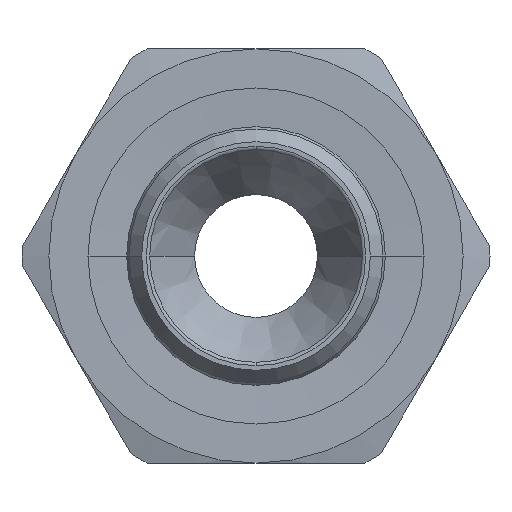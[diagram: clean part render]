
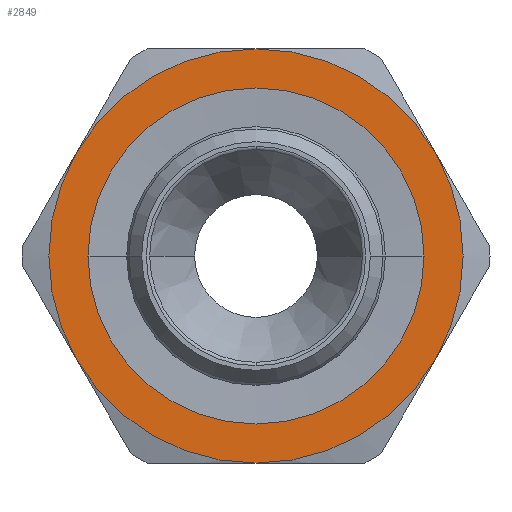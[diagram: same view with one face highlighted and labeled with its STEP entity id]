
A CAD part, left-side view. The second image highlights one B-rep face of the part: STEP entity #2849.
In plain terms, the highlighted planar face has unit normal (-1, 0, 0) as drawn and (0, 0, 1) by its records, which use the part's own axes.
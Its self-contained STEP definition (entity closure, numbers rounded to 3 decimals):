
#1176=CARTESIAN_POINT('',(0.,-10.95,3.5));
#1177=VERTEX_POINT('',#1176);
#1193=CARTESIAN_POINT('',(0.,10.95,3.5));
#1194=VERTEX_POINT('',#1193);
#1201=CARTESIAN_POINT('',(0.,0.,3.5));
#1202=DIRECTION('',(0.0,0.0,-1.0));
#1203=DIRECTION('',(0.0,-1.0,0.0));
#1204=AXIS2_PLACEMENT_3D('',#1201,#1202,#1203);
#1205=CIRCLE('',#1204,10.95);
#1206=EDGE_CURVE('',#1177,#1194,#1205,.T.);
#1663=CARTESIAN_POINT('',(0.,0.,3.5));
#1664=DIRECTION('',(0.0,0.0,-1.0));
#1665=DIRECTION('',(0.0,-1.0,0.0));
#1666=AXIS2_PLACEMENT_3D('',#1663,#1664,#1665);
#1667=CIRCLE('',#1666,10.95);
#1668=EDGE_CURVE('',#1194,#1177,#1667,.T.);
#2222=CARTESIAN_POINT('',(6.75,-11.691,3.5));
#2223=VERTEX_POINT('',#2222);
#2237=CARTESIAN_POINT('',(-6.75,-11.691,3.5));
#2238=VERTEX_POINT('',#2237);
#2239=CARTESIAN_POINT('',(0.,0.0,3.5));
#2240=DIRECTION('',(0.0,0.0,1.0));
#2241=DIRECTION('',(1.0,0.0,0.0));
#2242=AXIS2_PLACEMENT_3D('',#2239,#2240,#2241);
#2243=CIRCLE('',#2242,13.5);
#2244=EDGE_CURVE('',#2238,#2223,#2243,.T.);
#2322=CARTESIAN_POINT('',(-13.5,0.,3.5));
#2323=VERTEX_POINT('',#2322);
#2324=CARTESIAN_POINT('',(0.,0.0,3.5));
#2325=DIRECTION('',(0.0,0.0,1.0));
#2326=DIRECTION('',(1.0,0.0,0.0));
#2327=AXIS2_PLACEMENT_3D('',#2324,#2325,#2326);
#2328=CIRCLE('',#2327,13.5);
#2329=EDGE_CURVE('',#2323,#2238,#2328,.T.);
#2406=CARTESIAN_POINT('',(-6.75,11.691,3.5));
#2407=VERTEX_POINT('',#2406);
#2408=CARTESIAN_POINT('',(0.,0.0,3.5));
#2409=DIRECTION('',(0.0,0.0,1.0));
#2410=DIRECTION('',(1.0,0.0,0.0));
#2411=AXIS2_PLACEMENT_3D('',#2408,#2409,#2410);
#2412=CIRCLE('',#2411,13.5);
#2413=EDGE_CURVE('',#2407,#2323,#2412,.T.);
#2490=CARTESIAN_POINT('',(6.75,11.691,3.5));
#2491=VERTEX_POINT('',#2490);
#2492=CARTESIAN_POINT('',(0.,0.0,3.5));
#2493=DIRECTION('',(0.0,0.0,1.0));
#2494=DIRECTION('',(1.0,0.0,0.0));
#2495=AXIS2_PLACEMENT_3D('',#2492,#2493,#2494);
#2496=CIRCLE('',#2495,13.5);
#2497=EDGE_CURVE('',#2491,#2407,#2496,.T.);
#2575=CARTESIAN_POINT('',(13.5,0.0,3.5));
#2576=VERTEX_POINT('',#2575);
#2577=CARTESIAN_POINT('',(0.,0.0,3.5));
#2578=DIRECTION('',(0.0,0.0,1.0));
#2579=DIRECTION('',(1.0,0.0,0.0));
#2580=AXIS2_PLACEMENT_3D('',#2577,#2578,#2579);
#2581=CIRCLE('',#2580,13.5);
#2582=EDGE_CURVE('',#2576,#2491,#2581,.T.);
#2659=CARTESIAN_POINT('',(0.,0.0,3.5));
#2660=DIRECTION('',(0.0,0.0,1.0));
#2661=DIRECTION('',(1.0,0.0,0.0));
#2662=AXIS2_PLACEMENT_3D('',#2659,#2660,#2661);
#2663=CIRCLE('',#2662,13.5);
#2664=EDGE_CURVE('',#2223,#2576,#2663,.T.);
#2832=CARTESIAN_POINT('',(0.,0.,3.5));
#2833=DIRECTION('',(0.0,0.0,1.0));
#2834=DIRECTION('',(1.0,0.0,0.0));
#2835=AXIS2_PLACEMENT_3D('',#2832,#2833,#2834);
#2836=PLANE('',#2835);
#2837=ORIENTED_EDGE('',*,*,#2664,.T.);
#2838=ORIENTED_EDGE('',*,*,#2582,.T.);
#2839=ORIENTED_EDGE('',*,*,#2497,.T.);
#2840=ORIENTED_EDGE('',*,*,#2413,.T.);
#2841=ORIENTED_EDGE('',*,*,#2329,.T.);
#2842=ORIENTED_EDGE('',*,*,#2244,.T.);
#2843=EDGE_LOOP('',(#2837,#2838,#2839,#2840,#2841,#2842));
#2844=FACE_OUTER_BOUND('',#2843,.T.);
#2845=ORIENTED_EDGE('',*,*,#1206,.T.);
#2846=ORIENTED_EDGE('',*,*,#1668,.T.);
#2847=EDGE_LOOP('',(#2845,#2846));
#2848=FACE_BOUND('',#2847,.T.);
#2849=ADVANCED_FACE('',(#2844,#2848),#2836,.T.);
